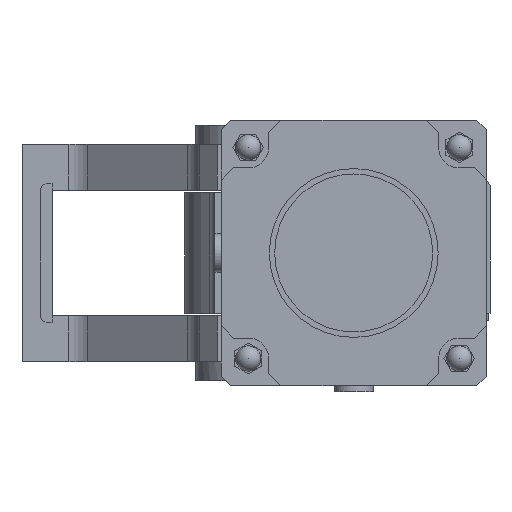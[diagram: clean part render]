
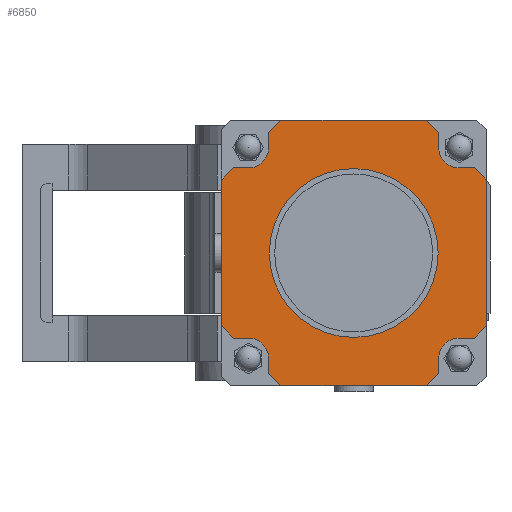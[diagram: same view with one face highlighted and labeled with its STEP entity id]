
A CAD part, front view. The second image highlights one B-rep face of the part: STEP entity #6850.
In plain terms, the highlighted planar face has unit normal (0, -1, 0).
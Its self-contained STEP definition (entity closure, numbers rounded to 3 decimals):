
#351=LINE('',#10787,#1057);
#352=LINE('',#10789,#1058);
#353=LINE('',#10791,#1059);
#354=LINE('',#10795,#1060);
#355=LINE('',#10797,#1061);
#356=LINE('',#10799,#1062);
#357=LINE('',#10801,#1063);
#358=LINE('',#10803,#1064);
#359=LINE('',#10807,#1065);
#360=LINE('',#10809,#1066);
#361=LINE('',#10811,#1067);
#362=LINE('',#10813,#1068);
#363=LINE('',#10815,#1069);
#364=LINE('',#10819,#1070);
#365=LINE('',#10821,#1071);
#366=LINE('',#10823,#1072);
#367=LINE('',#10825,#1073);
#368=LINE('',#10827,#1074);
#369=LINE('',#10831,#1075);
#370=LINE('',#10832,#1076);
#1057=VECTOR('',#8726,1000.);
#1058=VECTOR('',#8727,1000.);
#1059=VECTOR('',#8728,1000.);
#1060=VECTOR('',#8731,1000.);
#1061=VECTOR('',#8732,1000.);
#1062=VECTOR('',#8733,1000.);
#1063=VECTOR('',#8734,1000.);
#1064=VECTOR('',#8735,1000.);
#1065=VECTOR('',#8738,1000.);
#1066=VECTOR('',#8739,1000.);
#1067=VECTOR('',#8740,1000.);
#1068=VECTOR('',#8741,1000.);
#1069=VECTOR('',#8742,1000.);
#1070=VECTOR('',#8745,1000.);
#1071=VECTOR('',#8746,1000.);
#1072=VECTOR('',#8747,1000.);
#1073=VECTOR('',#8748,1000.);
#1074=VECTOR('',#8749,1000.);
#1075=VECTOR('',#8752,1000.);
#1076=VECTOR('',#8753,1000.);
#1588=PLANE('',#7563);
#1892=FACE_BOUND('',#2610,.T.);
#2114=FACE_OUTER_BOUND('',#2609,.T.);
#2609=EDGE_LOOP('',(#5346,#5347,#5348,#5349,#5350,#5351,#5352,#5353,#5354,
#5355,#5356,#5357,#5358,#5359,#5360,#5361,#5362,#5363,#5364,#5365,#5366,
#5367,#5368,#5369));
#2610=EDGE_LOOP('',(#5370));
#3046=CIRCLE('',#7545,70.);
#3053=CIRCLE('',#7564,17.);
#3054=CIRCLE('',#7565,17.);
#3055=CIRCLE('',#7566,17.);
#3056=CIRCLE('',#7567,17.);
#3374=VERTEX_POINT('',#10591);
#3465=VERTEX_POINT('',#10785);
#3466=VERTEX_POINT('',#10786);
#3467=VERTEX_POINT('',#10788);
#3468=VERTEX_POINT('',#10790);
#3469=VERTEX_POINT('',#10792);
#3470=VERTEX_POINT('',#10794);
#3471=VERTEX_POINT('',#10796);
#3472=VERTEX_POINT('',#10798);
#3473=VERTEX_POINT('',#10800);
#3474=VERTEX_POINT('',#10802);
#3475=VERTEX_POINT('',#10804);
#3476=VERTEX_POINT('',#10806);
#3477=VERTEX_POINT('',#10808);
#3478=VERTEX_POINT('',#10810);
#3479=VERTEX_POINT('',#10812);
#3480=VERTEX_POINT('',#10814);
#3481=VERTEX_POINT('',#10816);
#3482=VERTEX_POINT('',#10818);
#3483=VERTEX_POINT('',#10820);
#3484=VERTEX_POINT('',#10822);
#3485=VERTEX_POINT('',#10824);
#3486=VERTEX_POINT('',#10826);
#3487=VERTEX_POINT('',#10828);
#3488=VERTEX_POINT('',#10830);
#4090=EDGE_CURVE('',#3374,#3374,#3046,.T.);
#4181=EDGE_CURVE('',#3465,#3466,#351,.T.);
#4182=EDGE_CURVE('',#3467,#3466,#352,.T.);
#4183=EDGE_CURVE('',#3468,#3467,#353,.T.);
#4184=EDGE_CURVE('',#3469,#3468,#3053,.T.);
#4185=EDGE_CURVE('',#3470,#3469,#354,.T.);
#4186=EDGE_CURVE('',#3471,#3470,#355,.T.);
#4187=EDGE_CURVE('',#3471,#3472,#356,.T.);
#4188=EDGE_CURVE('',#3473,#3472,#357,.T.);
#4189=EDGE_CURVE('',#3474,#3473,#358,.T.);
#4190=EDGE_CURVE('',#3475,#3474,#3054,.T.);
#4191=EDGE_CURVE('',#3476,#3475,#359,.T.);
#4192=EDGE_CURVE('',#3477,#3476,#360,.T.);
#4193=EDGE_CURVE('',#3477,#3478,#361,.T.);
#4194=EDGE_CURVE('',#3479,#3478,#362,.T.);
#4195=EDGE_CURVE('',#3480,#3479,#363,.T.);
#4196=EDGE_CURVE('',#3481,#3480,#3055,.T.);
#4197=EDGE_CURVE('',#3482,#3481,#364,.T.);
#4198=EDGE_CURVE('',#3483,#3482,#365,.T.);
#4199=EDGE_CURVE('',#3483,#3484,#366,.T.);
#4200=EDGE_CURVE('',#3485,#3484,#367,.T.);
#4201=EDGE_CURVE('',#3486,#3485,#368,.T.);
#4202=EDGE_CURVE('',#3487,#3486,#3056,.T.);
#4203=EDGE_CURVE('',#3488,#3487,#369,.T.);
#4204=EDGE_CURVE('',#3465,#3488,#370,.T.);
#5346=ORIENTED_EDGE('',*,*,#4181,.T.);
#5347=ORIENTED_EDGE('',*,*,#4182,.F.);
#5348=ORIENTED_EDGE('',*,*,#4183,.F.);
#5349=ORIENTED_EDGE('',*,*,#4184,.F.);
#5350=ORIENTED_EDGE('',*,*,#4185,.F.);
#5351=ORIENTED_EDGE('',*,*,#4186,.F.);
#5352=ORIENTED_EDGE('',*,*,#4187,.T.);
#5353=ORIENTED_EDGE('',*,*,#4188,.F.);
#5354=ORIENTED_EDGE('',*,*,#4189,.F.);
#5355=ORIENTED_EDGE('',*,*,#4190,.F.);
#5356=ORIENTED_EDGE('',*,*,#4191,.F.);
#5357=ORIENTED_EDGE('',*,*,#4192,.F.);
#5358=ORIENTED_EDGE('',*,*,#4193,.T.);
#5359=ORIENTED_EDGE('',*,*,#4194,.F.);
#5360=ORIENTED_EDGE('',*,*,#4195,.F.);
#5361=ORIENTED_EDGE('',*,*,#4196,.F.);
#5362=ORIENTED_EDGE('',*,*,#4197,.F.);
#5363=ORIENTED_EDGE('',*,*,#4198,.F.);
#5364=ORIENTED_EDGE('',*,*,#4199,.T.);
#5365=ORIENTED_EDGE('',*,*,#4200,.F.);
#5366=ORIENTED_EDGE('',*,*,#4201,.F.);
#5367=ORIENTED_EDGE('',*,*,#4202,.F.);
#5368=ORIENTED_EDGE('',*,*,#4203,.F.);
#5369=ORIENTED_EDGE('',*,*,#4204,.F.);
#5370=ORIENTED_EDGE('',*,*,#4090,.F.);
#6850=ADVANCED_FACE('',(#2114,#1892),#1588,.F.);
#7545=AXIS2_PLACEMENT_3D('',#10592,#8604,#8605);
#7563=AXIS2_PLACEMENT_3D('',#10784,#8724,#8725);
#7564=AXIS2_PLACEMENT_3D('',#10793,#8729,#8730);
#7565=AXIS2_PLACEMENT_3D('',#10805,#8736,#8737);
#7566=AXIS2_PLACEMENT_3D('',#10817,#8743,#8744);
#7567=AXIS2_PLACEMENT_3D('',#10829,#8750,#8751);
#8604=DIRECTION('center_axis',(0.,-1.,0.));
#8605=DIRECTION('ref_axis',(0.,0.,1.));
#8724=DIRECTION('center_axis',(0.,1.,0.));
#8725=DIRECTION('ref_axis',(0.,0.,1.));
#8726=DIRECTION('',(0.,0.,-1.));
#8727=DIRECTION('',(-0.707,0.,0.707));
#8728=DIRECTION('',(-1.,0.,0.));
#8729=DIRECTION('center_axis',(0.,-1.,0.));
#8730=DIRECTION('ref_axis',(1.,0.,0.));
#8731=DIRECTION('',(0.,0.,1.));
#8732=DIRECTION('',(-0.707,0.,0.707));
#8733=DIRECTION('',(1.,0.,0.));
#8734=DIRECTION('',(-0.707,0.,-0.707));
#8735=DIRECTION('',(0.,0.,-1.));
#8736=DIRECTION('center_axis',(0.,-1.,0.));
#8737=DIRECTION('ref_axis',(0.,0.,1.));
#8738=DIRECTION('',(-1.,0.,0.));
#8739=DIRECTION('',(-0.707,0.,-0.707));
#8740=DIRECTION('',(0.,0.,1.));
#8741=DIRECTION('',(0.707,0.,-0.707));
#8742=DIRECTION('',(1.,0.,0.));
#8743=DIRECTION('center_axis',(0.,-1.,0.));
#8744=DIRECTION('ref_axis',(-1.,0.,0.));
#8745=DIRECTION('',(0.,0.,-1.));
#8746=DIRECTION('',(0.707,0.,-0.707));
#8747=DIRECTION('',(-1.,0.,0.));
#8748=DIRECTION('',(0.707,0.,0.707));
#8749=DIRECTION('',(0.,0.,1.));
#8750=DIRECTION('center_axis',(0.,-1.,0.));
#8751=DIRECTION('ref_axis',(0.,0.,-1.));
#8752=DIRECTION('',(1.,0.,0.));
#8753=DIRECTION('',(0.707,0.,0.707));
#10591=CARTESIAN_POINT('',(80.,-611.,70.));
#10592=CARTESIAN_POINT('Origin',(80.,-611.,0.));
#10784=CARTESIAN_POINT('Origin',(80.,-611.,0.));
#10785=CARTESIAN_POINT('',(-30.,-611.,60.5));
#10786=CARTESIAN_POINT('',(-30.,-611.,-60.5));
#10787=CARTESIAN_POINT('',(-30.,-611.,102.));
#10788=CARTESIAN_POINT('',(-20.,-611.,-70.5));
#10789=CARTESIAN_POINT('',(-30.,-611.,-60.5));
#10790=CARTESIAN_POINT('',(-7.5,-611.,-70.5));
#10791=CARTESIAN_POINT('',(-20.,-611.,-70.5));
#10792=CARTESIAN_POINT('',(9.5,-611.,-87.5));
#10793=CARTESIAN_POINT('Origin',(-7.5,-611.,-87.5));
#10794=CARTESIAN_POINT('',(9.5,-611.,-100.));
#10795=CARTESIAN_POINT('',(9.5,-611.,-87.5));
#10796=CARTESIAN_POINT('',(19.5,-611.,-110.));
#10797=CARTESIAN_POINT('',(9.5,-611.,-100.));
#10798=CARTESIAN_POINT('',(140.5,-611.,-110.));
#10799=CARTESIAN_POINT('',(-22.,-611.,-110.));
#10800=CARTESIAN_POINT('',(150.5,-611.,-100.));
#10801=CARTESIAN_POINT('',(140.5,-611.,-110.));
#10802=CARTESIAN_POINT('',(150.5,-611.,-87.5));
#10803=CARTESIAN_POINT('',(150.5,-611.,-100.));
#10804=CARTESIAN_POINT('',(167.5,-611.,-70.5));
#10805=CARTESIAN_POINT('Origin',(167.5,-611.,-87.5));
#10806=CARTESIAN_POINT('',(180.,-611.,-70.5));
#10807=CARTESIAN_POINT('',(167.5,-611.,-70.5));
#10808=CARTESIAN_POINT('',(190.,-611.,-60.5));
#10809=CARTESIAN_POINT('',(180.,-611.,-70.5));
#10810=CARTESIAN_POINT('',(190.,-611.,60.5));
#10811=CARTESIAN_POINT('',(190.,-611.,102.));
#10812=CARTESIAN_POINT('',(180.,-611.,70.5));
#10813=CARTESIAN_POINT('',(190.,-611.,60.5));
#10814=CARTESIAN_POINT('',(167.5,-611.,70.5));
#10815=CARTESIAN_POINT('',(180.,-611.,70.5));
#10816=CARTESIAN_POINT('',(150.5,-611.,87.5));
#10817=CARTESIAN_POINT('Origin',(167.5,-611.,87.5));
#10818=CARTESIAN_POINT('',(150.5,-611.,100.));
#10819=CARTESIAN_POINT('',(150.5,-611.,87.5));
#10820=CARTESIAN_POINT('',(140.5,-611.,110.));
#10821=CARTESIAN_POINT('',(150.5,-611.,100.));
#10822=CARTESIAN_POINT('',(19.5,-611.,110.));
#10823=CARTESIAN_POINT('',(-22.,-611.,110.));
#10824=CARTESIAN_POINT('',(9.5,-611.,100.));
#10825=CARTESIAN_POINT('',(19.5,-611.,110.));
#10826=CARTESIAN_POINT('',(9.5,-611.,87.5));
#10827=CARTESIAN_POINT('',(9.5,-611.,100.));
#10828=CARTESIAN_POINT('',(-7.5,-611.,70.5));
#10829=CARTESIAN_POINT('Origin',(-7.5,-611.,87.5));
#10830=CARTESIAN_POINT('',(-20.,-611.,70.5));
#10831=CARTESIAN_POINT('',(-7.5,-611.,70.5));
#10832=CARTESIAN_POINT('',(-20.,-611.,70.5));
